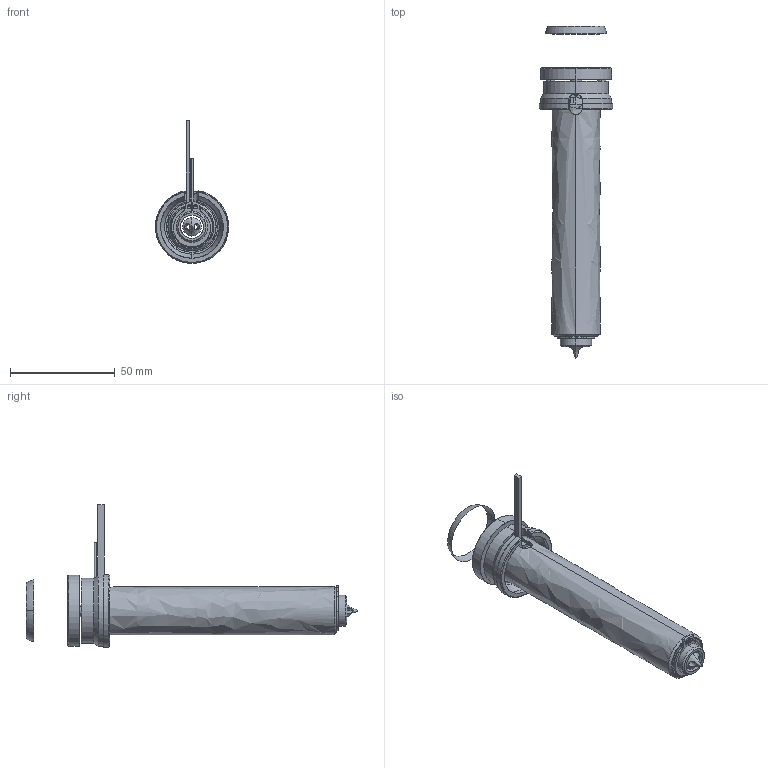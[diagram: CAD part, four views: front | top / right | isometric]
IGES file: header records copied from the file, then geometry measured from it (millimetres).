
Start section: SolidWorks IGES file using analytic representation for surfaces
Global section: file name: C:\Users\luca.EMPAD\Desktop\TEM\UGDL2603-M-A [Øf=0.6 ØC=5.5].IGS; native system: SolidWorks 2012; preprocessor: SolidWorks 2012; author: luca; date: 120330.144928; units: millimetre
Bounding box: 35 x 158.84 x 68.3 mm (x, y, z)
Surface area: 33542.9 mm2 (no closed solid volume)
Topology: 0 solids, 0 shells, 140 faces, 2226 edges, 2222 vertices
Faces by surface type: revolution 80, bspline 60
